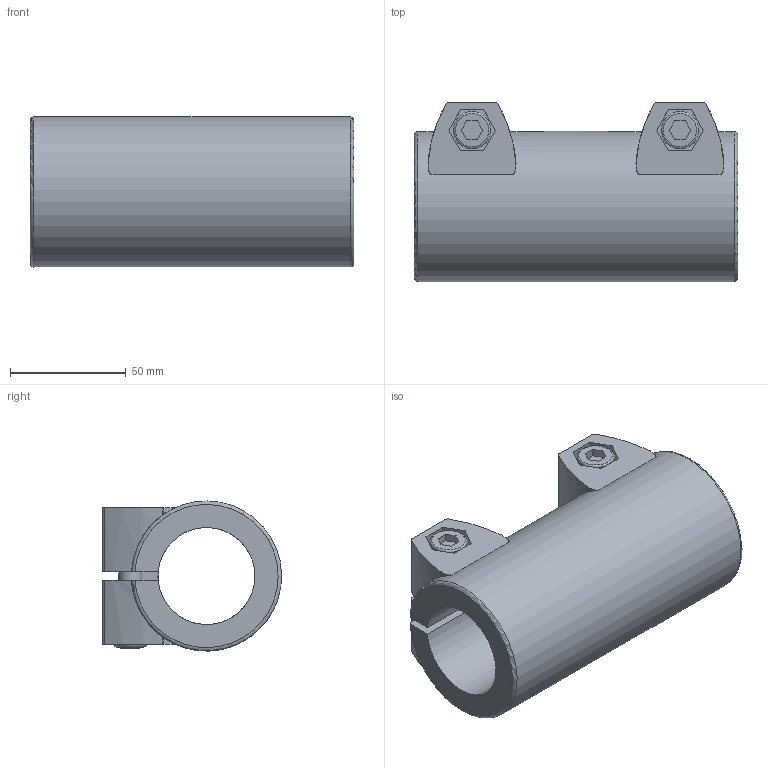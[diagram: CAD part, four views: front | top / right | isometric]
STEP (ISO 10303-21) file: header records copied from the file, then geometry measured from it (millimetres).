
FILE_DESCRIPTION( ( 'STEP AP203' ), '1' );
FILE_NAME( 'C:/Temp/Ganter_Step_05_03_2020/data/3_7/gn242/gn242_2/Tube connector GN 242-B42-B50-2-BL.stp', '2020-03-12T14:40:18', ( 'License CC BY-ND 4.0' ), ( 'CADENAS' ), ' ', 'PARTsolutions', ' ' );
FILE_SCHEMA( ( 'CONFIG_CONTROL_DESIGN' ) );
Length unit declared in the file: millimetre
Products named in the file (1): _Tube connector GN 242-B42-B50-2-BL
Bounding box: 140 x 77.48 x 64.96 mm (x, y, z)
Volume: 285128.1 mm3; surface area: 65609.6 mm2
Topology: 1 solids, 1 shells, 164 faces, 441 edges, 290 vertices
Faces by surface type: plane 85, cylinder 67, torus 8, cone 4
Full cylindrical faces by diameter (mm): 10 x2, 14 x2, 16 x2, 42 x1, 50 x1, 65 x1
Entity records: 5296 total; most frequent: CARTESIAN_POINT 1285, ORIENTED_EDGE 828, DIRECTION 790, EDGE_CURVE 414, VERTEX_POINT 284, AXIS2_PLACEMENT_3D 277, LINE 236, VECTOR 236
